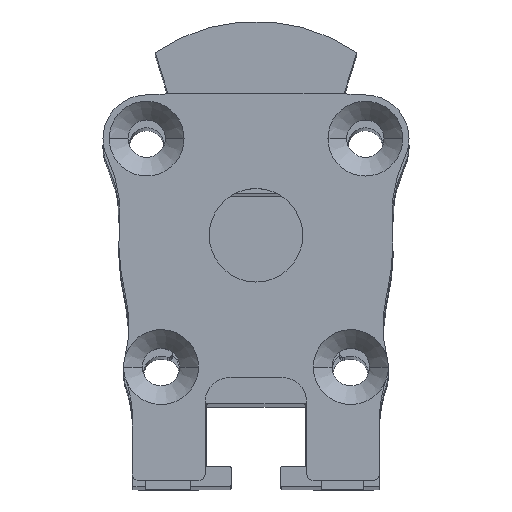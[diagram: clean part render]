
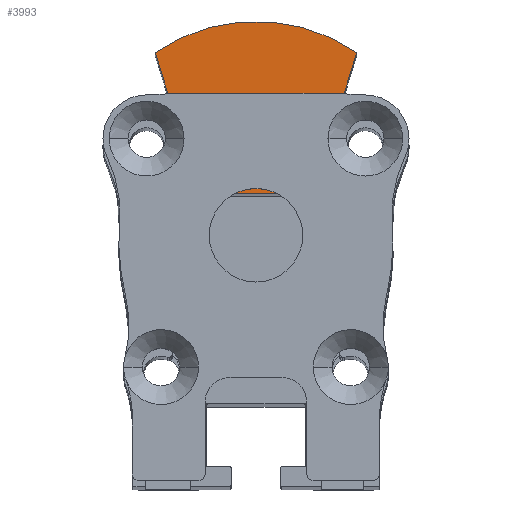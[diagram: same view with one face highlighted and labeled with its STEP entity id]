
A CAD part, top view. The second image highlights one B-rep face of the part: STEP entity #3993.
In plain terms, the highlighted planar face has unit normal (0, 0, 1).
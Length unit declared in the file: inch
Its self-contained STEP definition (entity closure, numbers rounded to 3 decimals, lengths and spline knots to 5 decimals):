
#3993=ADVANCED_FACE('',(#7809),#7810,.T.);
#4001=EDGE_CURVE('',#7813,#7819,#7822,.T.);
#4007=EDGE_CURVE('',#7827,#7819,#7830,.F.);
#4029=EDGE_CURVE('',#7861,#7862,#7863,.F.);
#4035=EDGE_CURVE('',#7869,#7870,#7871,.F.);
#4041=EDGE_CURVE('',#7870,#7861,#7877,.F.);
#4043=EDGE_CURVE('',#7869,#7879,#7880,.F.);
#4047=EDGE_CURVE('',#7813,#7862,#7884,.F.);
#4049=EDGE_CURVE('',#7886,#7887,#7888,.F.);
#4055=EDGE_CURVE('',#7827,#7894,#7895,.F.);
#4059=EDGE_CURVE('',#7894,#7886,#7899,.F.);
#4063=EDGE_CURVE('',#7901,#7887,#7904,.F.);
#4065=EDGE_CURVE('',#7879,#7901,#7906,.F.);
#7809=FACE_OUTER_BOUND('',#17684,.T.);
#7810=PLANE('',#17685);
#7813=VERTEX_POINT('',#17689);
#7819=VERTEX_POINT('',#17699);
#7822=LINE('',#17704,#17705);
#7827=VERTEX_POINT('',#17713);
#7830=LINE('',#17718,#17719);
#7861=VERTEX_POINT('',#17770);
#7862=VERTEX_POINT('',#17771);
#7863=LINE('',#17772,#17773);
#7869=VERTEX_POINT('',#17784);
#7870=VERTEX_POINT('',#17785);
#7871=LINE('',#17786,#17787);
#7877=LINE('',#17798,#17799);
#7879=VERTEX_POINT('',#17802);
#7880=LINE('',#17803,#17804);
#7884=LINE('',#17811,#17812);
#7886=VERTEX_POINT('',#17815);
#7887=VERTEX_POINT('',#17816);
#7888=LINE('',#17817,#17818);
#7894=VERTEX_POINT('',#17829);
#7895=LINE('',#17830,#17831);
#7899=LINE('',#17838,#17839);
#7901=VERTEX_POINT('',#17842);
#7904=LINE('',#17847,#17848);
#7906=CIRCLE('',#17851,0.56299);
#17684=EDGE_LOOP('',(#23393,#23394,#23395,#23396,#23397,#23398,#23399,#23400,#23401,#23402,#23403,#23404));
#17685=AXIS2_PLACEMENT_3D('',#23405,#23406,#23407);
#17689=CARTESIAN_POINT('',(-0.17932,0.15296,-5.67672));
#17699=CARTESIAN_POINT('',(0.17932,0.15296,-5.67672));
#17704=CARTESIAN_POINT('',(0.,0.15296,-5.67672));
#17705=VECTOR('',#23411,1.0);
#17713=CARTESIAN_POINT('',(0.26301,0.4208,-5.67672));
#17718=CARTESIAN_POINT('',(0.19145,0.19179,-5.67672));
#17719=VECTOR('',#23414,1.0);
#17770=CARTESIAN_POINT('',(-0.21005,0.4208,-5.67672));
#17771=CARTESIAN_POINT('',(-0.26301,0.4208,-5.67672));
#17772=CARTESIAN_POINT('',(-0.12298,0.4208,-5.67672));
#17773=VECTOR('',#23427,1.0);
#17784=CARTESIAN_POINT('',(-0.27532,0.46017,-5.67672));
#17785=CARTESIAN_POINT('',(-0.21005,0.46017,-5.67672));
#17786=CARTESIAN_POINT('',(-0.12298,0.46017,-5.67672));
#17787=VECTOR('',#23430,1.0);
#17798=CARTESIAN_POINT('',(-0.21005,0.35333,-5.67672));
#17799=VECTOR('',#23433,1.0);
#17802=CARTESIAN_POINT('',(-0.31832,0.59777,-5.67672));
#17803=CARTESIAN_POINT('',(-0.19145,0.19179,-5.67672));
#17804=VECTOR('',#23434,1.0);
#17811=CARTESIAN_POINT('',(-0.19145,0.19179,-5.67672));
#17812=VECTOR('',#23436,1.0);
#17815=CARTESIAN_POINT('',(0.20856,0.46017,-5.67672));
#17816=CARTESIAN_POINT('',(0.27532,0.46017,-5.67672));
#17817=CARTESIAN_POINT('',(0.12223,0.46017,-5.67672));
#17818=VECTOR('',#23437,1.0);
#17829=CARTESIAN_POINT('',(0.20856,0.4208,-5.67672));
#17830=CARTESIAN_POINT('',(0.12223,0.4208,-5.67672));
#17831=VECTOR('',#23440,1.0);
#17838=CARTESIAN_POINT('',(0.20856,0.35333,-5.67672));
#17839=VECTOR('',#23442,1.0);
#17842=CARTESIAN_POINT('',(0.31832,0.59777,-5.67672));
#17847=CARTESIAN_POINT('',(0.19145,0.19179,-5.67672));
#17848=VECTOR('',#23444,1.0);
#17851=AXIS2_PLACEMENT_3D('',#23445,#23446,#23447);
#23393=ORIENTED_EDGE('',*,*,#4001,.T.);
#23394=ORIENTED_EDGE('',*,*,#4007,.F.);
#23395=ORIENTED_EDGE('',*,*,#4055,.T.);
#23396=ORIENTED_EDGE('',*,*,#4059,.T.);
#23397=ORIENTED_EDGE('',*,*,#4049,.T.);
#23398=ORIENTED_EDGE('',*,*,#4063,.F.);
#23399=ORIENTED_EDGE('',*,*,#4065,.F.);
#23400=ORIENTED_EDGE('',*,*,#4043,.F.);
#23401=ORIENTED_EDGE('',*,*,#4035,.T.);
#23402=ORIENTED_EDGE('',*,*,#4041,.T.);
#23403=ORIENTED_EDGE('',*,*,#4029,.T.);
#23404=ORIENTED_EDGE('',*,*,#4047,.F.);
#23405=CARTESIAN_POINT('',(0.,0.26619,-5.67672));
#23406=DIRECTION('',(0.,0.,1.0));
#23407=DIRECTION('',(1.0,0.0,0.));
#23411=DIRECTION('',(1.0,0.0,0.));
#23414=DIRECTION('',(0.298,0.954,0.));
#23427=DIRECTION('',(1.0,0.0,0.));
#23430=DIRECTION('',(-1.0,0.0,0.));
#23433=DIRECTION('',(-0.0,1.0,0.));
#23434=DIRECTION('',(0.298,-0.954,0.));
#23436=DIRECTION('',(0.298,-0.954,0.));
#23437=DIRECTION('',(-1.0,0.0,0.));
#23440=DIRECTION('',(1.0,0.0,0.));
#23442=DIRECTION('',(-0.0,-1.0,0.));
#23444=DIRECTION('',(0.298,0.954,0.));
#23445=CARTESIAN_POINT('',(0.,0.13341,-5.67672));
#23446=DIRECTION('',(0.,0.,1.0));
#23447=DIRECTION('',(1.0,0.,0.));
